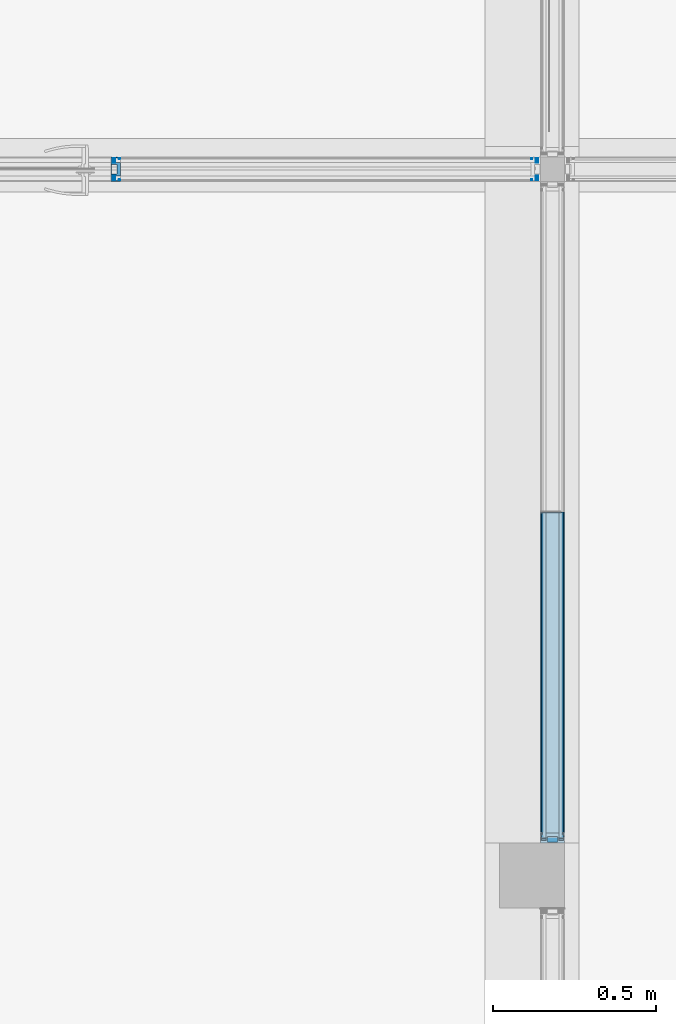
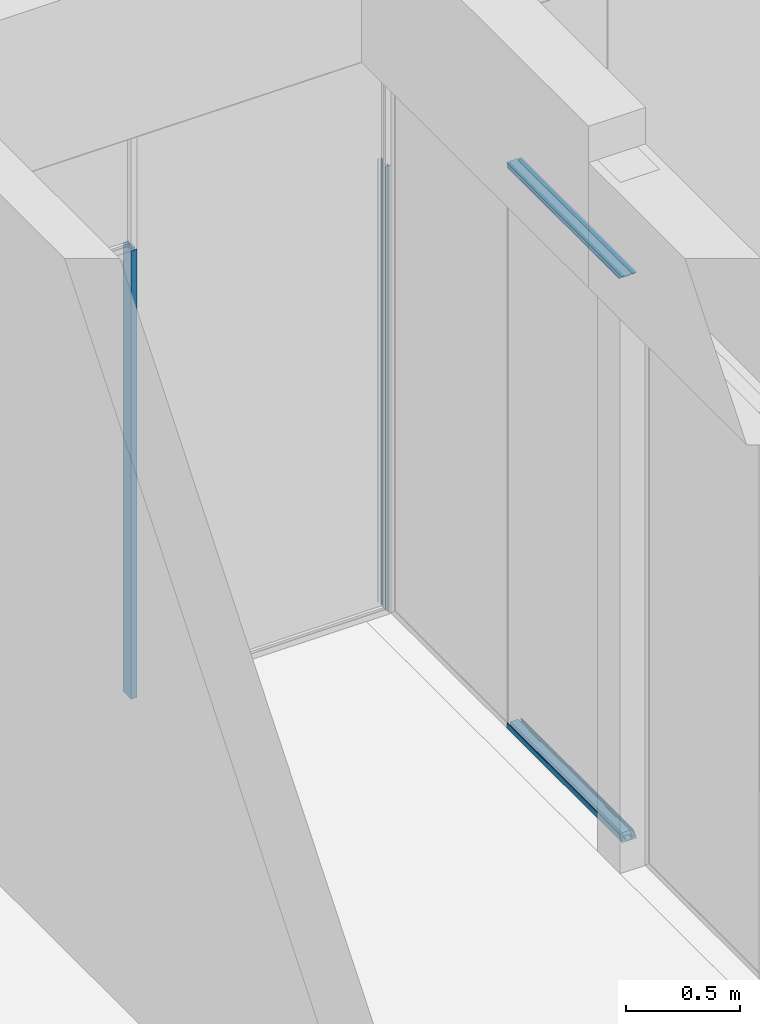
# One storey, part 71 of 387: 7 building element parts, 6 elements without a shape of their own.
"""IFC2X3 building model written with IfcOpenShell, lengths in millimetres."""

from ifc_helpers import new_model, entity, si_unit, converted_unit, derived_unit, money_unit, direction, frame, origin_with_axes, place, context, subcontext, project, spatial, faceted_brep, source, transform, mapped, material, type_object, element, aggregate, save


model = new_model("IFC2X3")

# Units and contexts
model_context = context("Model", 3, precision=0.01, world=origin_with_axes(), true_north=direction((0.0, 1.0)))
body_context = subcontext(model_context, "Body", "Model", "MODEL_VIEW")
ifc_project = project(units=[si_unit("LENGTHUNIT", "METRE", prefix="MILLI"), si_unit("AREAUNIT", "SQUARE_METRE"), si_unit("VOLUMEUNIT", "CUBIC_METRE"), converted_unit("PLANEANGLEUNIT", "DEGREE", entity("IfcPlaneAngleMeasure", 0.0174532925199), si_unit("PLANEANGLEUNIT", "RADIAN"), dimensions=[0, 0, 0, 0, 0, 0, 0]), si_unit("SOLIDANGLEUNIT", "STERADIAN"), money_unit("EUR"), converted_unit("TIMEUNIT", "Year", entity("IfcTimeMeasure", 31556926.0), si_unit("TIMEUNIT", "SECOND"), dimensions=[0, 0, 1, 0, 0, 0, 0]), si_unit("MASSUNIT", "GRAM", prefix="KILO"), si_unit("THERMODYNAMICTEMPERATUREUNIT", "DEGREE_CELSIUS"), si_unit("LUMINOUSINTENSITYUNIT", "LUMEN"), si_unit("ENERGYUNIT", "JOULE", prefix="MEGA"), derived_unit("THERMALCONDUCTANCEUNIT", [(si_unit("POWERUNIT", "WATT"), 1), (si_unit("LENGTHUNIT", "METRE"), -1), (si_unit("THERMODYNAMICTEMPERATUREUNIT", "KELVIN"), -1)]), derived_unit("SPECIFICHEATCAPACITYUNIT", [(si_unit("ENERGYUNIT", "JOULE"), 1), (si_unit("MASSUNIT", "GRAM", prefix="KILO"), -1), (si_unit("THERMODYNAMICTEMPERATUREUNIT", "KELVIN"), -1)]), derived_unit("MASSDENSITYUNIT", [(si_unit("MASSUNIT", "GRAM", prefix="KILO"), 1), (si_unit("VOLUMEUNIT", "CUBIC_METRE"), -1)])], contexts=[model_context])

# Site, building, storey
site_placement = place(None, origin_with_axes())
site = spatial("IfcSite", under=ifc_project, at=site_placement, Name="Puškini 31, Narva", CompositionType="ELEMENT")
building_placement = place(site_placement, origin_with_axes())
building = spatial("IfcBuilding", under=site, at=building_placement, Name="Narva Riigigümnaasium", CompositionType="ELEMENT")
storey_placement = place(building_placement, frame((0.0, 0.0, 2640.0), z_axis=(0.0, 0.0, 1.0), x_axis=(1.0, 0.0, 0.0)))
storey = spatial("IfcBuildingStorey", under=building, at=storey_placement, Name="2.korrus +2.64", CompositionType="ELEMENT", Elevation=2640.0)

# Curtain wall, members, building element parts
curtain_wall_type = type_object("IfcCurtainWallType", Name="Curtain Wall Type", PredefinedType="NOTDEFINED")
curtain_wall_1_placement = place(storey_placement, frame((30909.9999988, 173462.997263, -3.04069565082e-05), z_axis=(0.0, 0.0, 1.0), x_axis=(1.0, 0.0, 0.0)))
curtain_wall_1 = element("IfcCurtainWall", 1, at=curtain_wall_1_placement, inside=storey, type_object=curtain_wall_type, Name="G-SKLF-13")
member_type_1 = type_object("IfcMemberType", Name="30 x 37", PredefinedType="MULLION")
member_1_placement = place(curtain_wall_1_placement, frame((1815.99783124, -3.90798504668e-08, 0.0), z_axis=(-4.10434081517e-08, 0.0, 1.0), x_axis=(-1.0, 0.0, -4.10434081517e-08)))
member_1 = element("IfcMember", 2, at=member_1_placement, type_object=member_type_1, Name="G-SKLF-48-raam", ObjectType="MULLION")
ifc_material_1 = material(Name="Klaasvill")
shared_shape_1 = source(origin_with_axes(), body_context, "Body", "Brep", [
    faceted_brep([(13.8499999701, 20.000000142, 13.8500005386), (13.8499999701, 20.000000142, 2400.00003102), (7.49999990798, 20.000000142, 2400.00003102), (7.49999990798, 20.000000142, 7.5000002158), (13.8499999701, 34.0161444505, 13.8500005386), (13.8499999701, 34.0161444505, 2400.00003102), (7.49999990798, 34.0161444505, 2400.00003102), (7.49999990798, 34.0161444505, 7.5000002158)], [[[0, 1, 2, 3]], [[4, 5, 1, 0]], [[2, 1, 5, 6]], [[3, 2, 6, 7]], [[3, 7, 4, 0]], [[7, 6, 5, 4]]]),
    faceted_brep([(25.004489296, 32.0307503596, 25.0044903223), (25.004489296, 32.0307503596, 2400.00003102), (24.987414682, 34.0161444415, 2400.00003102), (24.987414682, 34.0161444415, 24.9874157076), (25.742237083, 31.2930025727, 25.7422381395), (25.742237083, 31.2930025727, 2400.00003102), (26.7500193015, 31.0229681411, 2400.00003102), (27.75780152, 31.2930025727, 2400.00003102), (28.4955493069, 32.0307503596, 2400.00003102), (28.7655837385, 33.0385325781, 2400.00003102), (28.5126239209, 34.0161444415, 2400.00003102), (28.5126239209, 34.0161444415, 28.5126250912), (28.7655837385, 33.0385325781, 28.7655849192), (28.4955493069, 32.0307503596, 28.4955504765), (27.75780152, 31.2930025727, 27.7578026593), (26.7500193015, 31.0229681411, 26.7500203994)], [[[0, 1, 2, 3]], [[4, 5, 1, 0]], [[2, 1, 5, 6, 7, 8, 9, 10]], [[3, 2, 10, 11]], [[3, 11, 12, 13, 14, 15, 4, 0]], [[15, 6, 5, 4]], [[14, 7, 6, 15]], [[13, 8, 7, 14]], [[12, 9, 8, 13]], [[11, 10, 9, 12]]]),
    faceted_brep([(7.49999990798, -34.0161445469, 7.5000002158), (7.49999990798, -34.0161445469, 2400.00003102), (7.49999990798, -19.9999997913, 2400.00003102), (7.49999990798, -19.9999997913, 7.5000002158), (13.8499999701, -34.0161445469, 13.8500005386), (13.8499999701, -34.0161445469, 2400.00003102), (13.8499999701, -19.9999997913, 2400.00003102), (13.8499999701, -19.9999997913, 13.8500005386)], [[[0, 1, 2, 3]], [[4, 5, 1, 0]], [[2, 1, 5, 6]], [[3, 2, 6, 7]], [[3, 7, 4, 0]], [[7, 6, 5, 4]]]),
    faceted_brep([(24.987414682, -34.0161444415, 24.9874157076), (24.987414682, -34.0161444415, 2400.00003102), (25.004489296, -32.0307503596, 2400.00003102), (25.004489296, -32.0307503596, 25.0044903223), (28.5126239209, -34.0161444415, 28.5126250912), (28.5126239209, -34.0161444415, 2400.00003102), (28.7655837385, -33.0385325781, 2400.00003102), (28.4955493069, -32.0307503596, 2400.00003102), (27.75780152, -31.2930025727, 2400.00003102), (26.7500193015, -31.0229681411, 2400.00003102), (25.742237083, -31.2930025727, 2400.00003102), (25.742237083, -31.2930025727, 25.7422381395), (26.7500193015, -31.0229681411, 26.7500203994), (27.75780152, -31.2930025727, 27.7578026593), (28.4955493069, -32.0307503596, 28.4955504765), (28.7655837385, -33.0385325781, 28.7655849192)], [[[0, 1, 2, 3]], [[4, 5, 1, 0]], [[2, 1, 5, 6, 7, 8, 9, 10]], [[3, 2, 10, 11]], [[3, 11, 12, 13, 14, 15, 4, 0]], [[15, 6, 5, 4]], [[14, 7, 6, 15]], [[13, 8, 7, 14]], [[12, 9, 8, 13]], [[11, 10, 9, 12]]]),
])
building_element_part_1_placement = place(member_1_placement, origin_with_axes())
building_element_part_1 = element("IfcBuildingElementPart", 3, at=building_element_part_1_placement, material=ifc_material_1, Name="Klaasvill", context=body_context, shape_type="MappedRepresentation", body=[
    mapped(shared_shape_1, transform((0.0, 0.0, 0.0))),
])
aggregate(member_1, [building_element_part_1])
member_type_2 = type_object("IfcMemberType", Name="30 x 27", PredefinedType="MULLION")
member_2_placement = place(curtain_wall_1_placement, frame((500.0, -1.07718278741e-08, 0.0), z_axis=(0.0, 0.0, 1.0), x_axis=(-1.0, 0.0, 0.0)))
member_2 = element("IfcMember", 4, at=member_2_placement, type_object=member_type_2, Name="G-SKLF-13-raam", ObjectType="MULLION")
aggregate(curtain_wall_1, [member_2, member_1])
shared_shape_2 = source(origin_with_axes(), body_context, "Body", "Brep", [
    faceted_brep([(-13.8499999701, 20.000000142, 0.0), (-7.49999990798, 20.000000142, 0.0), (-7.49999990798, 20.000000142, 2400.00000477), (-13.8499999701, 20.000000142, 2400.00000477), (-13.8499999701, 34.0161444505, 0.0), (-7.49999990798, 34.0161444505, 0.0), (-7.49999990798, 34.0161444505, 2400.00000477), (-13.8499999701, 34.0161444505, 2400.00000477)], [[[0, 1, 2, 3]], [[0, 4, 5, 1]], [[1, 5, 6, 2]], [[3, 2, 6, 7]], [[4, 0, 3, 7]], [[5, 4, 7, 6]]]),
    faceted_brep([(-24.987414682, 34.0161444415, 0.0), (-28.7655837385, 33.0385325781, 0.0), (-28.7655837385, 33.0385325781, 2400.00000477), (-24.987414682, 34.0161444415, 2400.00000477), (-24.7344548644, 33.0385325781, 0.0), (-25.004489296, 32.0307503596, 0.0), (-25.742237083, 31.2930025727, 0.0), (-26.7500193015, 31.0229681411, 0.0), (-27.75780152, 31.2930025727, 0.0), (-28.4955493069, 32.0307503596, 0.0), (-28.4955493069, 32.0307503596, 2400.00000477), (-27.75780152, 31.2930025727, 2400.00000477), (-26.7500193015, 31.0229681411, 2400.00000477), (-25.742237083, 31.2930025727, 2400.00000477), (-25.004489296, 32.0307503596, 2400.00000477), (-24.7344548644, 33.0385325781, 2400.00000477)], [[[0, 1, 2, 3]], [[0, 4, 5, 6, 7, 8, 9, 1]], [[1, 9, 10, 2]], [[3, 2, 10, 11, 12, 13, 14, 15]], [[4, 0, 3, 15]], [[5, 4, 15, 14]], [[6, 5, 14, 13]], [[7, 6, 13, 12]], [[8, 7, 12, 11]], [[9, 8, 11, 10]]]),
    faceted_brep([(-13.8499999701, -19.9999997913, 0.0), (-13.8499999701, -34.0161445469, 0.0), (-13.8499999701, -34.0161445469, 2400.00000477), (-13.8499999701, -19.9999997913, 2400.00000477), (-7.49999990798, -19.9999997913, 0.0), (-7.49999990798, -34.0161445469, 0.0), (-7.49999990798, -34.0161445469, 2400.00000477), (-7.49999990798, -19.9999997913, 2400.00000477)], [[[0, 1, 2, 3]], [[0, 4, 5, 1]], [[1, 5, 6, 2]], [[3, 2, 6, 7]], [[4, 0, 3, 7]], [[5, 4, 7, 6]]]),
    faceted_brep([(-24.987414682, -34.0161444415, 0.0), (-25.004489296, -32.0307503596, 0.0), (-25.004489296, -32.0307503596, 2400.00000477), (-24.987414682, -34.0161444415, 2400.00000477), (-28.5126239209, -34.0161444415, 0.0), (-28.7655837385, -33.0385325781, 0.0), (-28.4955493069, -32.0307503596, 0.0), (-27.75780152, -31.2930025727, 0.0), (-26.7500193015, -31.0229681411, 0.0), (-25.742237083, -31.2930025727, 0.0), (-25.742237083, -31.2930025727, 2400.00000477), (-26.7500193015, -31.0229681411, 2400.00000477), (-27.75780152, -31.2930025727, 2400.00000477), (-28.4955493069, -32.0307503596, 2400.00000477), (-28.7655837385, -33.0385325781, 2400.00000477), (-28.5126239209, -34.0161444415, 2400.00000477)], [[[0, 1, 2, 3]], [[0, 4, 5, 6, 7, 8, 9, 1]], [[1, 9, 10, 2]], [[3, 2, 10, 11, 12, 13, 14, 15]], [[4, 0, 3, 15]], [[5, 4, 15, 14]], [[6, 5, 14, 13]], [[7, 6, 13, 12]], [[8, 7, 12, 11]], [[9, 8, 11, 10]]]),
])
building_element_part_2_placement = place(member_2_placement, origin_with_axes())
building_element_part_2 = element("IfcBuildingElementPart", 5, at=building_element_part_2_placement, material=ifc_material_1, Name="Klaasvill", context=body_context, shape_type="MappedRepresentation", body=[
    mapped(shared_shape_2, transform((0.0, 0.0, 0.0))),
])
ifc_material_2 = material(Name="Teras RAL7012")
shared_shape_3 = source(origin_with_axes(), body_context, "Body", "Brep", [
    faceted_brep([(-29.6000001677, 17.0000000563, 0.0), (-29.6000001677, -17.0000000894, 0.0), (-29.6000001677, -17.0000000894, 2400.00000477), (-29.6000001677, 17.0000000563, 2400.00000477), (3.28335792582e-07, 17.0000000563, 0.0), (3.28335792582e-07, -17.0000000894, 0.0), (-1.99999958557, -15.0000001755, 0.0), (-1.99999958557, 15.0000001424, 0.0), (-18.8000001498, 15.0000001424, 0.0), (-18.8000001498, -15.0000001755, 0.0), (3.28335792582e-07, -17.0000000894, 2400.00000477), (3.28335792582e-07, 17.0000000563, 2400.00000477), (-1.99999958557, -15.0000001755, 2400.00000477), (-18.8000001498, -15.0000001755, 2400.00000477), (-18.8000001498, 15.0000001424, 2400.00000477), (-1.99999958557, 15.0000001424, 2400.00000477)], [[[0, 1, 2, 3]], [[0, 4, 5, 1], [6, 7, 8, 9]], [[1, 5, 10, 2]], [[3, 2, 10, 11], [12, 13, 14, 15]], [[4, 0, 3, 11]], [[5, 4, 11, 10]], [[7, 6, 12, 15]], [[8, 7, 15, 14]], [[9, 8, 14, 13]], [[6, 9, 13, 12]]]),
    faceted_brep([(0.0, 17.0, 0.0), (0.0, 37.0, 0.0), (0.0, 37.0, 2400.00000477), (0.0, 17.0, 2400.00000477), (-29.6000001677, 17.0000000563, 0.0), (-30.0000193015, 17.0, 0.0), (-30.0000193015, 20.0, 0.0), (-13.8499999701, 20.000000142, 0.0), (-7.49999999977, 20.0, 0.0), (-7.49999999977, 34.0161444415, 0.0), (-13.8499999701, 34.0161444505, 0.0), (-24.987414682, 34.0161444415, 0.0), (-28.5126239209, 34.0161444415, 0.0), (-30.0000193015, 34.0161444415, 0.0), (-30.0000193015, 37.0, 0.0), (-30.0000193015, 37.0, 2400.00000477), (-30.0000193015, 34.0161444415, 2400.00000477), (-28.5126239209, 34.0161444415, 2400.00000477), (-24.987414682, 34.0161444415, 2400.00000477), (-13.8499999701, 34.0161444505, 2400.00000477), (-7.49999999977, 34.0161444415, 2400.00000477), (-7.49999999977, 20.0, 2400.00000477), (-13.8499999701, 20.000000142, 2400.00000477), (-30.0000193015, 20.0, 2400.00000477), (-30.0000193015, 17.0, 2400.00000477), (-29.6000001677, 17.0000000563, 2400.00000477)], [[[0, 1, 2, 3]], [[0, 4, 5, 6, 7, 8, 9, 10, 11, 12, 13, 14, 1]], [[1, 14, 15, 2]], [[3, 2, 15, 16, 17, 18, 19, 20, 21, 22, 23, 24, 25]], [[4, 0, 3, 25]], [[5, 4, 25, 24]], [[6, 5, 24, 23]], [[7, 6, 23, 22]], [[8, 7, 22, 21]], [[9, 8, 21, 20]], [[10, 9, 20, 19]], [[11, 10, 19, 18]], [[12, 11, 18, 17]], [[13, 12, 17, 16]], [[14, 13, 16, 15]]]),
    faceted_brep([(0.0, -17.0, 0.0), (-29.6000001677, -17.0000000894, 0.0), (-29.6000001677, -17.0000000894, 2400.00000477), (0.0, -17.0, 2400.00000477), (0.0, -37.0, 0.0), (-30.0000193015, -37.0, 0.0), (-30.0000193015, -34.0161444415, 0.0), (-28.5126239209, -34.0161444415, 0.0), (-24.987414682, -34.0161444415, 0.0), (-13.8499999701, -34.0161445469, 0.0), (-7.49999999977, -34.0161444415, 0.0), (-7.49999999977, -20.0, 0.0), (-13.8499999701, -19.9999997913, 0.0), (-30.0000193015, -20.0, 0.0), (-30.0000193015, -17.0, 0.0), (-30.0000193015, -17.0, 2400.00000477), (-30.0000193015, -20.0, 2400.00000477), (-13.8499999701, -19.9999997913, 2400.00000477), (-7.49999999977, -20.0, 2400.00000477), (-7.49999999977, -34.0161444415, 2400.00000477), (-13.8499999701, -34.0161445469, 2400.00000477), (-24.987414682, -34.0161444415, 2400.00000477), (-28.5126239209, -34.0161444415, 2400.00000477), (-30.0000193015, -34.0161444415, 2400.00000477), (-30.0000193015, -37.0, 2400.00000477), (0.0, -37.0, 2400.00000477)], [[[0, 1, 2, 3]], [[0, 4, 5, 6, 7, 8, 9, 10, 11, 12, 13, 14, 1]], [[1, 14, 15, 2]], [[3, 2, 15, 16, 17, 18, 19, 20, 21, 22, 23, 24, 25]], [[4, 0, 3, 25]], [[5, 4, 25, 24]], [[6, 5, 24, 23]], [[7, 6, 23, 22]], [[8, 7, 22, 21]], [[9, 8, 21, 20]], [[10, 9, 20, 19]], [[11, 10, 19, 18]], [[12, 11, 18, 17]], [[13, 12, 17, 16]], [[14, 13, 16, 15]]]),
])
building_element_part_3_placement = place(member_2_placement, origin_with_axes())
building_element_part_3 = element("IfcBuildingElementPart", 6, at=building_element_part_3_placement, material=ifc_material_2, Name="Teras RAL7012", context=body_context, shape_type="MappedRepresentation", body=[
    mapped(shared_shape_3, transform((0.0, 0.0, 0.0))),
])
aggregate(member_2, [building_element_part_2, building_element_part_3])

curtain_wall_2_placement = place(storey_placement, frame((32758.0000014, 172919.500026, -4.39056688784e-05), z_axis=(0.0, 0.0, 1.0), x_axis=(1.0, 0.0, 0.0)))
curtain_wall_2 = element("IfcCurtainWall", 7, at=curtain_wall_2_placement, inside=storey, type_object=curtain_wall_type, Name="G-SKLF-28")
member_type_3 = type_object("IfcMemberType", Name="Boundary Frame 30 x 42", PredefinedType="MULLION")
member_3_placement = place(curtain_wall_2_placement, frame((-3.81987774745e-08, -1519.5, 0.0), z_axis=(0.0, 1.0, 0.0), x_axis=(0.0, 0.0, 1.0)))
member_3 = element("IfcMember", 8, at=member_3_placement, type_object=member_type_3, Name="G-SKLF-03-raam", ObjectType="MULLION")
shared_shape_4 = source(origin_with_axes(), body_context, "Body", "Brep", [
    faceted_brep([(-13.8499999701, 15.000000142, 13.8499999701), (-7.49999990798, 15.000000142, 7.49999990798), (-7.49999990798, 15.000000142, 1012.62499678), (-13.8499999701, 15.000000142, 1012.30749405), (-13.8499999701, 29.0161444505, 13.8499999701), (-7.49999990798, 29.0161444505, 7.49999990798), (-7.49999990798, 29.0161444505, 1012.62499678), (-13.8499999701, 29.0161444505, 1012.30749405)], [[[0, 1, 2, 3]], [[1, 0, 4, 5]], [[1, 5, 6, 2]], [[2, 6, 7, 3]], [[4, 0, 3, 7]], [[5, 4, 7, 6]]]),
    faceted_brep([(-25.004489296, 27.0307503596, 25.004489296), (-24.987414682, 29.0161444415, 24.987414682), (-24.987414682, 29.0161444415, 1011.75061852), (-25.004489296, 27.0307503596, 1011.74976478), (-25.742237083, 26.2930025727, 25.742237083), (-26.7500193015, 26.0229681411, 26.7500193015), (-27.75780152, 26.2930025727, 27.75780152), (-28.4955493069, 27.0307503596, 28.4955493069), (-28.7655837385, 28.0385325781, 28.7655837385), (-28.5126239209, 29.0161444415, 28.5126239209), (-28.5126239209, 29.0161444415, 1011.57435654), (-28.7655837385, 28.0385325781, 1011.56170844), (-28.4955493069, 27.0307503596, 1011.57521028), (-27.75780152, 26.2930025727, 1011.61209799), (-26.7500193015, 26.0229681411, 1011.66248753), (-25.742237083, 26.2930025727, 1011.71287708)], [[[0, 1, 2, 3]], [[1, 0, 4, 5, 6, 7, 8, 9]], [[1, 9, 10, 2]], [[2, 10, 11, 12, 13, 14, 15, 3]], [[4, 0, 3, 15]], [[5, 4, 15, 14]], [[6, 5, 14, 13]], [[7, 6, 13, 12]], [[8, 7, 12, 11]], [[9, 8, 11, 10]]]),
    faceted_brep([(-7.49999990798, -39.0161445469, 7.49999990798), (-7.49999990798, -24.9999997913, 7.49999990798), (-7.49999990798, -24.9999997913, 1012.62499678), (-7.49999990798, -39.0161445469, 1012.62499678), (-13.8499999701, -39.0161445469, 13.8499999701), (-13.8499999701, -24.9999997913, 13.8499999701), (-13.8499999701, -24.9999997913, 1012.30749405), (-13.8499999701, -39.0161445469, 1012.30749405)], [[[0, 1, 2, 3]], [[1, 0, 4, 5]], [[1, 5, 6, 2]], [[2, 6, 7, 3]], [[4, 0, 3, 7]], [[5, 4, 7, 6]]]),
    faceted_brep([(-24.987414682, -39.0161444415, 24.987414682), (-25.004489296, -37.0307503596, 25.004489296), (-25.004489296, -37.0307503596, 1011.74976478), (-24.987414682, -39.0161444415, 1011.75061852), (-28.5126239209, -39.0161444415, 28.5126239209), (-28.7655837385, -38.0385325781, 28.7655837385), (-28.4955493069, -37.0307503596, 28.4955493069), (-27.75780152, -36.2930025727, 27.75780152), (-26.7500193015, -36.0229681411, 26.7500193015), (-25.742237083, -36.2930025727, 25.742237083), (-25.742237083, -36.2930025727, 1011.71287708), (-26.7500193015, -36.0229681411, 1011.66248753), (-27.75780152, -36.2930025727, 1011.61209799), (-28.4955493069, -37.0307503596, 1011.57521028), (-28.7655837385, -38.0385325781, 1011.56170844), (-28.5126239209, -39.0161444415, 1011.57435654)], [[[0, 1, 2, 3]], [[1, 0, 4, 5, 6, 7, 8, 9]], [[1, 9, 10, 2]], [[2, 10, 11, 12, 13, 14, 15, 3]], [[4, 0, 3, 15]], [[5, 4, 15, 14]], [[6, 5, 14, 13]], [[7, 6, 13, 12]], [[8, 7, 12, 11]], [[9, 8, 11, 10]]]),
])
building_element_part_4_placement = place(member_3_placement, origin_with_axes())
building_element_part_4 = element("IfcBuildingElementPart", 9, at=building_element_part_4_placement, material=ifc_material_1, Name="Klaasvill", context=body_context, shape_type="MappedRepresentation", body=[
    mapped(shared_shape_4, transform((0.0, 0.0, 0.0), x_axis=(-1.0, 0.0, 0.0), y_axis=(0.0, -1.0, 0.0), z_axis=(0.0, 0.0, 1.0))),
])
shared_shape_5 = source(origin_with_axes(), body_context, "Body", "Brep", [
    faceted_brep([(-29.5999996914, -22.0000000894, 29.5999996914), (0.0, -22.0000000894, 0.0), (0.0, -22.0000000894, 1013.0), (-29.5999996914, -22.0000000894, 1011.51998729), (-29.5999996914, 12.0000000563, 29.5999996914), (0.0, 12.0000000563, 0.0), (-1.9999999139, 10.0000001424, 1.9999999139), (-18.7999996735, 10.0000001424, 18.7999996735), (-18.7999996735, -20.0000001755, 18.7999996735), (-1.9999999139, -20.0000001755, 1.9999999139), (0.0, 12.0000000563, 1013.0), (-29.5999996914, 12.0000000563, 1011.51998729), (-1.9999999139, 10.0000001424, 1012.89999914), (-1.9999999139, -20.0000001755, 1012.89999914), (-18.7999996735, -20.0000001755, 1012.05999193), (-18.7999996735, 10.0000001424, 1012.05999193)], [[[0, 1, 2, 3]], [[1, 0, 4, 5], [6, 7, 8, 9]], [[1, 5, 10, 2]], [[2, 10, 11, 3], [12, 13, 14, 15]], [[4, 0, 3, 11]], [[5, 4, 11, 10]], [[7, 6, 12, 15]], [[8, 7, 15, 14]], [[9, 8, 14, 13]], [[6, 9, 13, 12]]]),
    faceted_brep([(-29.5999996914, 12.0000000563, 29.5999996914), (0.0, 12.0, 0.0), (0.0, 12.0, 1013.0), (-29.5999996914, 12.0000000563, 1011.51998729), (-30.0000193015, 12.0, 30.0000193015), (-30.0000193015, 15.0, 30.0000193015), (-13.8499999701, 15.000000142, 13.8499999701), (-7.49999999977, 15.0, 7.49999999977), (-7.49999999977, 29.0161444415, 7.49999999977), (-13.8499999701, 29.0161444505, 13.8499999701), (-24.987414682, 29.0161444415, 24.987414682), (-28.5126239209, 29.0161444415, 28.5126239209), (-30.0000193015, 29.0161444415, 30.0000193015), (-30.0000193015, 32.0, 30.0000193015), (0.0, 32.0, 0.0), (0.0, 32.0, 1013.0), (-30.0000193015, 32.0, 1011.49998613), (-30.0000193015, 29.0161444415, 1011.49998613), (-28.5126239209, 29.0161444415, 1011.57435654), (-24.987414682, 29.0161444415, 1011.75061852), (-13.8499999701, 29.0161444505, 1012.30749405), (-7.49999999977, 29.0161444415, 1012.62499677), (-7.49999999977, 15.0, 1012.62499677), (-13.8499999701, 15.000000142, 1012.30749405), (-30.0000193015, 15.0, 1011.49998613), (-30.0000193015, 12.0, 1011.49998613)], [[[0, 1, 2, 3]], [[1, 0, 4, 5, 6, 7, 8, 9, 10, 11, 12, 13, 14]], [[1, 14, 15, 2]], [[2, 15, 16, 17, 18, 19, 20, 21, 22, 23, 24, 25, 3]], [[4, 0, 3, 25]], [[5, 4, 25, 24]], [[6, 5, 24, 23]], [[7, 6, 23, 22]], [[8, 7, 22, 21]], [[9, 8, 21, 20]], [[10, 9, 20, 19]], [[11, 10, 19, 18]], [[12, 11, 18, 17]], [[13, 12, 17, 16]], [[14, 13, 16, 15]]]),
    faceted_brep([(0.0, -42.0, 0.0), (0.0, -22.0, 0.0), (0.0, -22.0, 1013.0), (0.0, -42.0, 1013.0), (-30.0000193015, -42.0, 30.0000193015), (-30.0000193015, -39.0161444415, 30.0000193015), (-28.5126239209, -39.0161444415, 28.5126239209), (-24.987414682, -39.0161444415, 24.987414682), (-13.8499999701, -39.0161445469, 13.8499999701), (-7.49999999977, -39.0161444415, 7.49999999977), (-7.49999999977, -25.0, 7.49999999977), (-13.8499999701, -24.9999997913, 13.8499999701), (-30.0000193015, -25.0, 30.0000193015), (-30.0000193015, -22.0, 30.0000193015), (-29.5999996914, -22.0000000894, 29.5999996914), (-29.5999996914, -22.0000000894, 1011.51998729), (-30.0000193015, -22.0, 1011.49998613), (-30.0000193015, -25.0, 1011.49998613), (-13.8499999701, -24.9999997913, 1012.30749405), (-7.49999999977, -25.0, 1012.62499677), (-7.49999999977, -39.0161444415, 1012.62499677), (-13.8499999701, -39.0161445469, 1012.30749405), (-24.987414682, -39.0161444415, 1011.75061852), (-28.5126239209, -39.0161444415, 1011.57435654), (-30.0000193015, -39.0161444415, 1011.49998613), (-30.0000193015, -42.0, 1011.49998613)], [[[0, 1, 2, 3]], [[1, 0, 4, 5, 6, 7, 8, 9, 10, 11, 12, 13, 14]], [[1, 14, 15, 2]], [[2, 15, 16, 17, 18, 19, 20, 21, 22, 23, 24, 25, 3]], [[4, 0, 3, 25]], [[5, 4, 25, 24]], [[6, 5, 24, 23]], [[7, 6, 23, 22]], [[8, 7, 22, 21]], [[9, 8, 21, 20]], [[10, 9, 20, 19]], [[11, 10, 19, 18]], [[12, 11, 18, 17]], [[13, 12, 17, 16]], [[14, 13, 16, 15]]]),
])
building_element_part_5_placement = place(member_3_placement, origin_with_axes())
building_element_part_5 = element("IfcBuildingElementPart", 10, at=building_element_part_5_placement, material=ifc_material_2, Name="Teras RAL7012", context=body_context, shape_type="MappedRepresentation", body=[
    mapped(shared_shape_5, transform((0.0, 0.0, 0.0), x_axis=(-1.0, 0.0, 0.0), y_axis=(0.0, -1.0, 0.0), z_axis=(0.0, 0.0, 1.0))),
])
aggregate(member_3, [building_element_part_4, building_element_part_5])
member_4_placement = place(curtain_wall_2_placement, frame((-1.27329258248e-08, -506.5, 3029.99999672), z_axis=(0.0, -1.0, 0.0), x_axis=(0.0, 0.0, -1.0)))
member_4 = element("IfcMember", 11, at=member_4_placement, type_object=member_type_3, Name="G-SKLF-07-raam", ObjectType="MULLION")
aggregate(curtain_wall_2, [member_3, member_4])
shared_shape_6 = source(origin_with_axes(), body_context, "Body", "Brep", [
    faceted_brep([(-13.8499999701, 15.000000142, 0.692505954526), (-7.49999990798, 15.000000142, 0.37500322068), (-7.49999990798, 15.000000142, 1005.50000009), (-13.8499999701, 15.000000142, 999.15000003), (-13.8499999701, 29.0161444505, 0.692505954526), (-7.49999990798, 29.0161444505, 0.37500322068), (-7.49999990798, 29.0161444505, 1005.50000009), (-13.8499999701, 29.0161444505, 999.15000003)], [[[0, 1, 2, 3]], [[1, 0, 4, 5]], [[1, 5, 6, 2]], [[2, 6, 7, 3]], [[4, 0, 3, 7]], [[5, 4, 7, 6]]]),
    faceted_brep([(-25.004489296, 27.0307503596, 1.25023521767), (-24.987414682, 29.0161444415, 1.24938147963), (-24.987414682, 29.0161444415, 988.012585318), (-25.004489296, 27.0307503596, 987.995510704), (-25.742237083, 26.2930025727, 1.28712292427), (-26.7500193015, 26.0229681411, 1.33751246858), (-27.75780152, 26.2930025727, 1.38790201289), (-28.4955493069, 27.0307503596, 1.4247897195), (-28.7655837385, 28.0385325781, 1.43829155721), (-28.5126239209, 29.0161444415, 1.42564345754), (-28.5126239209, 29.0161444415, 984.487376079), (-28.7655837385, 28.0385325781, 984.234416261), (-28.4955493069, 27.0307503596, 984.504450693), (-27.75780152, 26.2930025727, 985.24219848), (-26.7500193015, 26.0229681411, 986.249980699), (-25.742237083, 26.2930025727, 987.257762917)], [[[0, 1, 2, 3]], [[1, 0, 4, 5, 6, 7, 8, 9]], [[1, 9, 10, 2]], [[2, 10, 11, 12, 13, 14, 15, 3]], [[4, 0, 3, 15]], [[5, 4, 15, 14]], [[6, 5, 14, 13]], [[7, 6, 13, 12]], [[8, 7, 12, 11]], [[9, 8, 11, 10]]]),
    faceted_brep([(-7.49999990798, -39.0161445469, 0.37500322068), (-7.49999990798, -24.9999997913, 0.37500322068), (-7.49999990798, -24.9999997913, 1005.50000009), (-7.49999990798, -39.0161445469, 1005.50000009), (-13.8499999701, -39.0161445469, 0.692505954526), (-13.8499999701, -24.9999997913, 0.692505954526), (-13.8499999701, -24.9999997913, 999.15000003), (-13.8499999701, -39.0161445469, 999.15000003)], [[[0, 1, 2, 3]], [[1, 0, 4, 5]], [[1, 5, 6, 2]], [[2, 6, 7, 3]], [[4, 0, 3, 7]], [[5, 4, 7, 6]]]),
    faceted_brep([(-24.987414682, -39.0161444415, 1.24938147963), (-25.004489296, -37.0307503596, 1.25023521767), (-25.004489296, -37.0307503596, 987.995510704), (-24.987414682, -39.0161444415, 988.012585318), (-28.5126239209, -39.0161444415, 1.42564345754), (-28.7655837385, -38.0385325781, 1.43829155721), (-28.4955493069, -37.0307503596, 1.4247897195), (-27.75780152, -36.2930025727, 1.38790201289), (-26.7500193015, -36.0229681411, 1.33751246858), (-25.742237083, -36.2930025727, 1.28712292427), (-25.742237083, -36.2930025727, 987.257762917), (-26.7500193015, -36.0229681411, 986.249980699), (-27.75780152, -36.2930025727, 985.24219848), (-28.4955493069, -37.0307503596, 984.504450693), (-28.7655837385, -38.0385325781, 984.234416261), (-28.5126239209, -39.0161444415, 984.487376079)], [[[0, 1, 2, 3]], [[1, 0, 4, 5, 6, 7, 8, 9]], [[1, 9, 10, 2]], [[2, 10, 11, 12, 13, 14, 15, 3]], [[4, 0, 3, 15]], [[5, 4, 15, 14]], [[6, 5, 14, 13]], [[7, 6, 13, 12]], [[8, 7, 12, 11]], [[9, 8, 11, 10]]]),
])
building_element_part_6_placement = place(member_4_placement, origin_with_axes())
building_element_part_6 = element("IfcBuildingElementPart", 12, at=building_element_part_6_placement, material=ifc_material_1, Name="Klaasvill", context=body_context, shape_type="MappedRepresentation", body=[
    mapped(shared_shape_6, transform((0.0, 0.0, 0.0), x_axis=(-1.0, 0.0, 0.0), y_axis=(0.0, -1.0, 0.0), z_axis=(0.0, 0.0, 1.0))),
])
shared_shape_7 = source(origin_with_axes(), body_context, "Body", "Brep", [
    faceted_brep([(-29.5999996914, -22.0000000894, 1.48001271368), (0.0, -22.0000000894, 0.0), (0.0, -22.0000000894, 1013.0), (-29.5999996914, -22.0000000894, 983.400000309), (-29.5999996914, 12.0000000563, 1.48001271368), (0.0, 12.0000000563, 0.0), (-1.9999999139, 10.0000001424, 0.10000085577), (-18.7999996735, 10.0000001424, 0.940008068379), (-18.7999996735, -20.0000001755, 0.940008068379), (-1.9999999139, -20.0000001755, 0.10000085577), (0.0, 12.0000000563, 1013.0), (-29.5999996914, 12.0000000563, 983.400000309), (-1.9999999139, 10.0000001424, 1011.00000009), (-1.9999999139, -20.0000001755, 1011.00000009), (-18.7999996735, -20.0000001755, 994.200000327), (-18.7999996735, 10.0000001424, 994.200000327)], [[[0, 1, 2, 3]], [[1, 0, 4, 5], [6, 7, 8, 9]], [[1, 5, 10, 2]], [[2, 10, 11, 3], [12, 13, 14, 15]], [[4, 0, 3, 11]], [[5, 4, 11, 10]], [[7, 6, 12, 15]], [[8, 7, 15, 14]], [[9, 8, 14, 13]], [[6, 9, 13, 12]]]),
    faceted_brep([(-29.5999996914, 12.0000000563, 1.48001271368), (0.0, 12.0, 0.0), (0.0, 12.0, 1013.0), (-29.5999996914, 12.0000000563, 983.400000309), (-30.0000193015, 12.0, 1.50001386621), (-30.0000193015, 15.0, 1.50001386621), (-13.8499999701, 15.000000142, 0.692505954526), (-7.49999999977, 15.0, 0.375003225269), (-7.49999999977, 29.0161444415, 0.375003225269), (-13.8499999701, 29.0161444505, 0.692505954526), (-24.987414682, 29.0161444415, 1.24938147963), (-28.5126239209, 29.0161444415, 1.42564345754), (-30.0000193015, 29.0161444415, 1.50001386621), (-30.0000193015, 32.0, 1.50001386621), (0.0, 32.0, 0.0), (0.0, 32.0, 1013.0), (-30.0000193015, 32.0, 982.999980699), (-30.0000193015, 29.0161444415, 982.999980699), (-28.5126239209, 29.0161444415, 984.487376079), (-24.987414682, 29.0161444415, 988.012585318), (-13.8499999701, 29.0161444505, 999.15000003), (-7.49999999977, 29.0161444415, 1005.5), (-7.49999999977, 15.0, 1005.5), (-13.8499999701, 15.000000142, 999.15000003), (-30.0000193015, 15.0, 982.999980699), (-30.0000193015, 12.0, 982.999980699)], [[[0, 1, 2, 3]], [[1, 0, 4, 5, 6, 7, 8, 9, 10, 11, 12, 13, 14]], [[1, 14, 15, 2]], [[2, 15, 16, 17, 18, 19, 20, 21, 22, 23, 24, 25, 3]], [[4, 0, 3, 25]], [[5, 4, 25, 24]], [[6, 5, 24, 23]], [[7, 6, 23, 22]], [[8, 7, 22, 21]], [[9, 8, 21, 20]], [[10, 9, 20, 19]], [[11, 10, 19, 18]], [[12, 11, 18, 17]], [[13, 12, 17, 16]], [[14, 13, 16, 15]]]),
    faceted_brep([(0.0, -42.0, 0.0), (0.0, -22.0, 0.0), (0.0, -22.0, 1013.0), (0.0, -42.0, 1013.0), (-30.0000193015, -42.0, 1.50001386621), (-30.0000193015, -39.0161444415, 1.50001386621), (-28.5126239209, -39.0161444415, 1.42564345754), (-24.987414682, -39.0161444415, 1.24938147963), (-13.8499999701, -39.0161445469, 0.692505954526), (-7.49999999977, -39.0161444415, 0.375003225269), (-7.49999999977, -25.0, 0.375003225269), (-13.8499999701, -24.9999997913, 0.692505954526), (-30.0000193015, -25.0, 1.50001386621), (-30.0000193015, -22.0, 1.50001386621), (-29.5999996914, -22.0000000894, 1.48001271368), (-29.5999996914, -22.0000000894, 983.400000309), (-30.0000193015, -22.0, 982.999980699), (-30.0000193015, -25.0, 982.999980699), (-13.8499999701, -24.9999997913, 999.15000003), (-7.49999999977, -25.0, 1005.5), (-7.49999999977, -39.0161444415, 1005.5), (-13.8499999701, -39.0161445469, 999.15000003), (-24.987414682, -39.0161444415, 988.012585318), (-28.5126239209, -39.0161444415, 984.487376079), (-30.0000193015, -39.0161444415, 982.999980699), (-30.0000193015, -42.0, 982.999980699)], [[[0, 1, 2, 3]], [[1, 0, 4, 5, 6, 7, 8, 9, 10, 11, 12, 13, 14]], [[1, 14, 15, 2]], [[2, 15, 16, 17, 18, 19, 20, 21, 22, 23, 24, 25, 3]], [[4, 0, 3, 25]], [[5, 4, 25, 24]], [[6, 5, 24, 23]], [[7, 6, 23, 22]], [[8, 7, 22, 21]], [[9, 8, 21, 20]], [[10, 9, 20, 19]], [[11, 10, 19, 18]], [[12, 11, 18, 17]], [[13, 12, 17, 16]], [[14, 13, 16, 15]]]),
])
building_element_part_7_placement = place(member_4_placement, origin_with_axes())
building_element_part_7 = element("IfcBuildingElementPart", 13, at=building_element_part_7_placement, material=ifc_material_2, Name="Teras RAL7012", context=body_context, shape_type="MappedRepresentation", body=[
    mapped(shared_shape_7, transform((0.0, 0.0, 0.0), x_axis=(-1.0, 0.0, 0.0), y_axis=(0.0, -1.0, 0.0), z_axis=(0.0, 0.0, 1.0))),
])
aggregate(member_4, [building_element_part_6, building_element_part_7])

save(model, "model.ifc")
